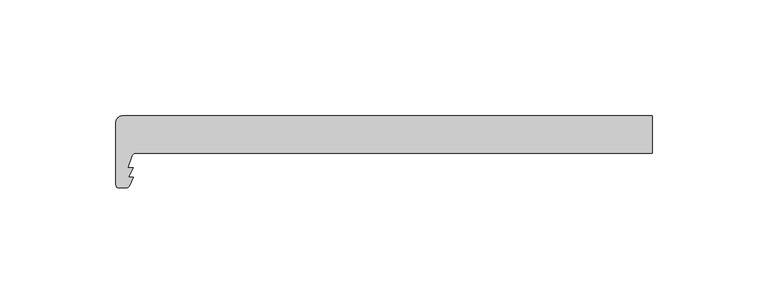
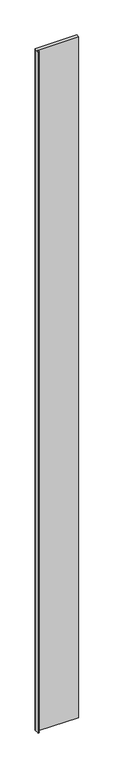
"""IFC4 building model written with IfcOpenShell, lengths in millimetres: plate geometry, Walls_Curtain-Walls_Danpal_VRS-System : Walls_Curtain-Walls_Danpal_VRS-System."""

from ifc_helpers import new_model, si_unit, point, frame_2d, origin, origin_with_axes, place, context, project, spatial, polyline, circle_curve, trimmed, segment, composite_curve, outline, extrude, source, transform, mapped, element, save


def plate_535f7c57(model_context):
    return source(origin(), model_context, "Body", "SweptSolid", [
        extrude(outline(composite_curve([segment(trimmed(circle_curve(frame_2d((-106.7876717, -18.0)), 2.0), [point((-106.7876717, -16.0))], [point((-108.6688058, -17.3207839))], True, "CARTESIAN"), True, "CONTINUOUS"), segment(polyline([(-108.6688058, -17.3207839), (-110.434264, -22.2103379), (-108.0236611, -22.2103379), (-110.1951578, -26.5), (-108.0236611, -26.5), (-109.8852549, -30.1774675)]), True, "CONTINUOUS"), segment(trimmed(circle_curve(frame_2d((-111.2235515, -29.5)), 1.5), [point((-109.8852549, -30.1774675))], [point((-111.2235515, -31.0))], False, "CARTESIAN"), True, "CONTINUOUS"), segment(polyline([(-111.2235515, -31.0), (-114.1982205, -31.0)]), True, "CONTINUOUS"), segment(trimmed(circle_curve(frame_2d((-114.1982205, -29.6745594)), 1.3254406), [point((-114.1982205, -31.0))], [point((-115.5236611, -29.6745594))], False, "CARTESIAN"), True, "CONTINUOUS"), segment(polyline([(-115.5236611, -29.6745594), (-115.5236611, -2.6508813)]), True, "CONTINUOUS"), segment(trimmed(circle_curve(frame_2d((-112.8727799, -2.6508813)), 2.6508813), [point((-115.5236611, -2.6508813))], [point((-112.8727799, 0.0))], False, "CARTESIAN"), True, "CONTINUOUS"), segment(polyline([(-112.8727799, 0.0), (115.5236611, 0.0), (115.5236611, -16.0), (-106.7876717, -16.0)]), True, "CONTINUOUS")], self_intersect=False)), origin_with_axes(), (0.0, 0.0, 1.0), 3938.1633646),
    ])


if __name__ == "__main__":
    model = new_model("IFC4")
    model_context = context("Model", 3, world=origin())
    ifc_project = project(units=[si_unit("LENGTHUNIT", "METRE", prefix="MILLI")], contexts=[model_context])
    site = spatial("IfcSite", under=ifc_project)
    building = spatial("IfcBuilding", under=site)
    placement = place(None, origin())
    plate_shape = plate_535f7c57(model_context)
    element("IfcPlate", 1, ObjectType="Walls_Curtain-Walls_Danpal_VRS-System : Walls_Curtain-Walls_Danpal_VRS-System", at=placement, inside=building, context=model_context, shape_type="MappedRepresentation", body=[
        mapped(plate_shape, transform((0.0, 0.0, 0.0), x_axis=(1.0, 0.0, 0.0), y_axis=(0.0, 1.0, 0.0), z_axis=(0.0, 0.0, 1.0))),
    ])
    save(model, "model.ifc")
